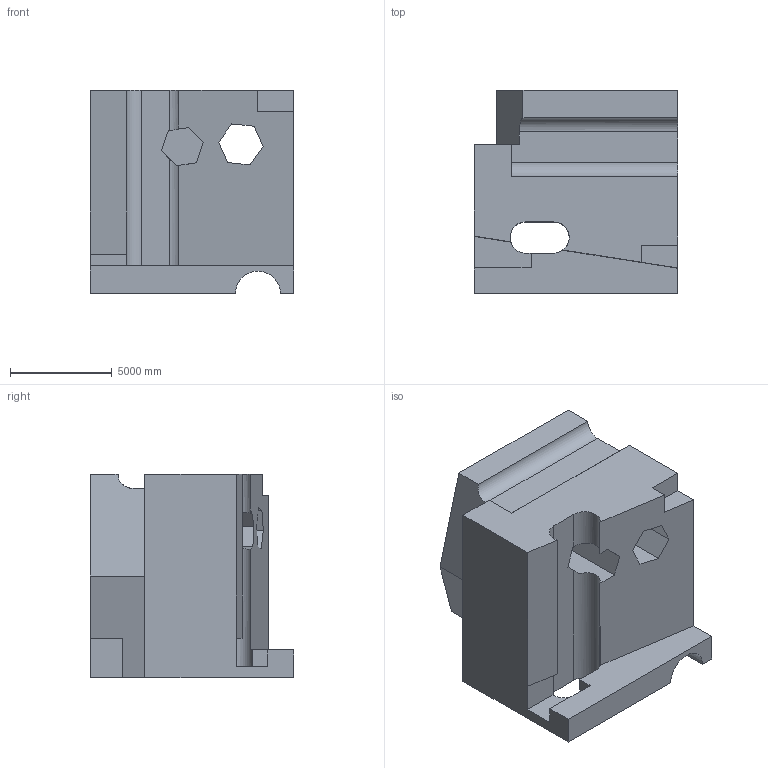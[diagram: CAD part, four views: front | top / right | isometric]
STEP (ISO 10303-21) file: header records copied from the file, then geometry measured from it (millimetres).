
FILE_DESCRIPTION (( 'STEP AP203' ), '1' );
FILE_NAME ('1938.STEP', '2022-08-23T09:42:46', ( 'user' ), ( '' ), 'SwSTEP 2.0', 'SolidWorks 2021', '' );
FILE_SCHEMA (( 'CONFIG_CONTROL_DESIGN' ));
Length unit declared in the file: centimetre
Products named in the file (1): 1938
Bounding box: 10000 x 10000 x 10000 mm (x, y, z)
Volume: 653305414854.7 mm3; surface area: 671097140.4 mm2
Topology: 1 solids, 1 shells, 51 faces, 149 edges, 99 vertices
Faces by surface type: plane 42, cylinder 9
Entity records: 1758 total; most frequent: CARTESIAN_POINT 312, ORIENTED_EDGE 298, DIRECTION 267, EDGE_CURVE 149, LINE 127, VECTOR 127, VERTEX_POINT 99, AXIS2_PLACEMENT_3D 70
